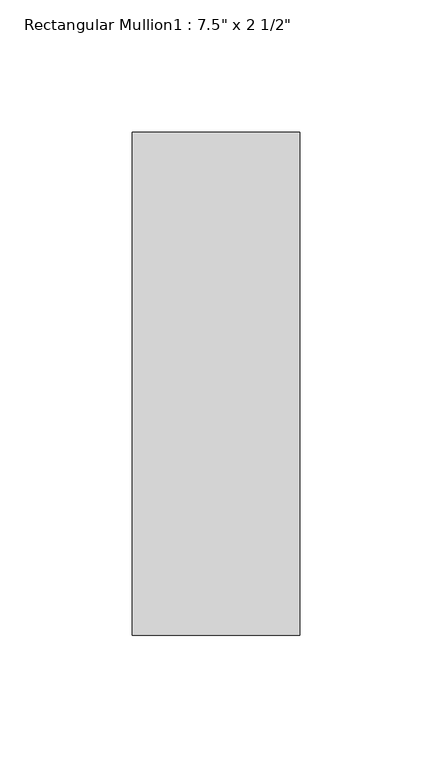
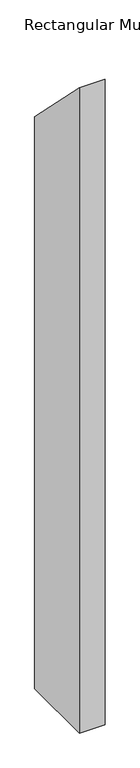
"""IFC4 building model written with IfcOpenShell, lengths in millimetres: member geometry."""

from ifc_helpers import new_model, si_unit, frame, origin, place, context, project, spatial, polyline, outline, extrude, source, transform, mapped, element, save


def member_180b4aa5(model_context):
    return source(origin(), model_context, "Body", "SweptSolid", [
        extrude(outline(polyline([(-25.4, 25.4), (165.1, -165.1), (165.1, -1653.2387778), (-25.4, -1653.2387778), (-25.4, 25.4)])), frame((-63.5, 0.0, 0.0), z_axis=(1.0, 0.0, 0.0), x_axis=(0.0, 1.0, 0.0)), (0.0, 0.0, 1.0), 63.5),
    ])


if __name__ == "__main__":
    model = new_model("IFC4")
    model_context = context("Model", 3, world=origin())
    ifc_project = project(units=[si_unit("LENGTHUNIT", "METRE", prefix="MILLI")], contexts=[model_context])
    site = spatial("IfcSite", under=ifc_project)
    building = spatial("IfcBuilding", under=site)
    placement = place(None, origin())
    member_shape = member_180b4aa5(model_context)
    element("IfcMember", 1, ObjectType="Rectangular Mullion1 : 7.5\" x 2 1/2\"", at=placement, inside=building, context=model_context, shape_type="MappedRepresentation", body=[
        mapped(member_shape, transform((0.0, 0.0, 0.0), x_axis=(1.0, 0.0, 0.0), y_axis=(0.0, 1.0, 0.0), z_axis=(0.0, 0.0, 1.0))),
    ])
    save(model, "model.ifc")
